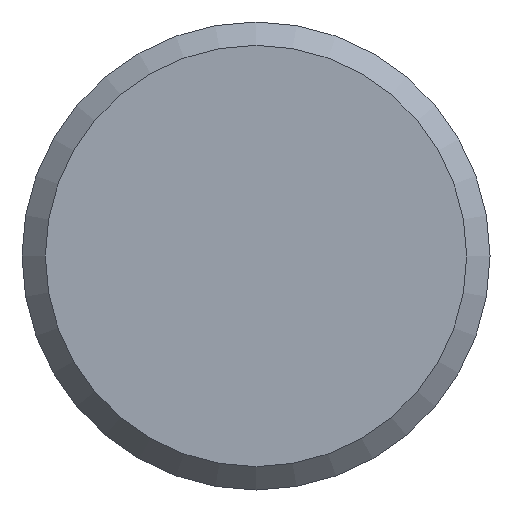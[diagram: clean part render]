
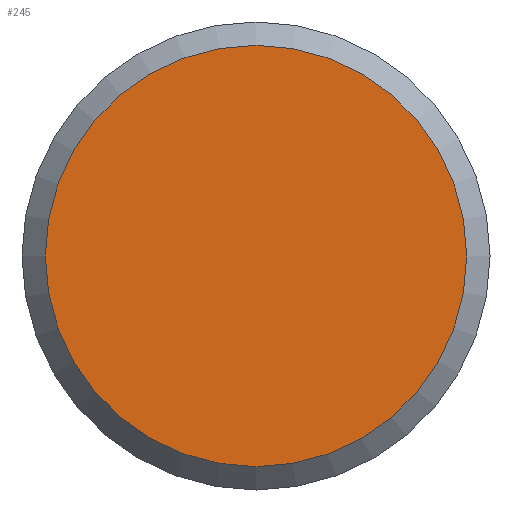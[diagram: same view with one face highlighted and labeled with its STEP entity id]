
A CAD part, front view. The second image highlights one B-rep face of the part: STEP entity #245.
In plain terms, the highlighted planar face has unit normal (0, -1, 0).
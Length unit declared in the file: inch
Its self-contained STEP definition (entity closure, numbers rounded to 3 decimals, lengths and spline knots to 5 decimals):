
#17=CIRCLE('',#271,0.586);
#35=FACE_OUTER_BOUND('',#48,.T.);
#48=EDGE_LOOP('',(#199));
#116=VERTEX_POINT('',#416);
#147=EDGE_CURVE('',#116,#116,#17,.T.);
#199=ORIENTED_EDGE('',*,*,#147,.F.);
#234=PLANE('',#277);
#245=ADVANCED_FACE('',(#35),#234,.T.);
#271=AXIS2_PLACEMENT_3D('',#417,#312,#313);
#277=AXIS2_PLACEMENT_3D('',#429,#326,#327);
#312=DIRECTION('center_axis',(0.,1.,0.));
#313=DIRECTION('ref_axis',(0.,0.,1.));
#326=DIRECTION('center_axis',(0.,-1.,0.));
#327=DIRECTION('ref_axis',(0.,0.,-1.));
#416=CARTESIAN_POINT('',(0.,0.,-0.586));
#417=CARTESIAN_POINT('Origin',(0.,0.,0.));
#429=CARTESIAN_POINT('Origin',(0.,0.,0.));
